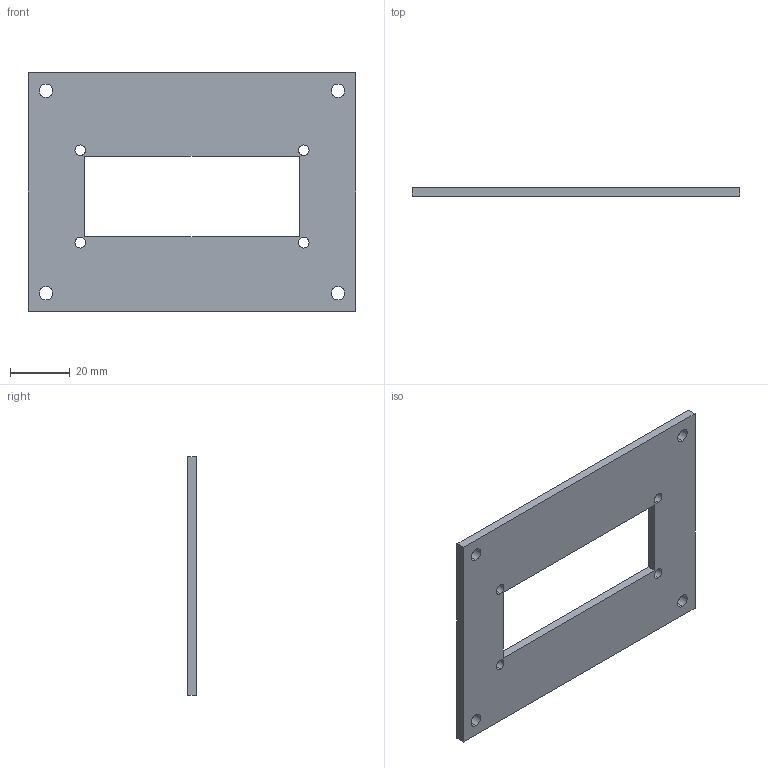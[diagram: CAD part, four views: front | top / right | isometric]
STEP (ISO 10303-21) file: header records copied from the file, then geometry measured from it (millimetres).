
FILE_DESCRIPTION (( 'STEP AP214' ), '1' );
FILE_NAME ('Faceplate.STEP', '2018-05-10T20:45:02', ( '' ), ( '' ), 'SwSTEP 2.0', 'SolidWorks 2015', '' );
FILE_SCHEMA (( 'AUTOMOTIVE_DESIGN' ));
Length unit declared in the file: millimetre
Products named in the file (1): Faceplate
Bounding box: 110 x 3 x 80 mm (x, y, z)
Volume: 20255 mm3; surface area: 15542.7 mm2
Topology: 1 solids, 1 shells, 26 faces, 72 edges, 48 vertices
Faces by surface type: cylinder 16, plane 10
Entity records: 918 total; most frequent: DIRECTION 158, CARTESIAN_POINT 147, ORIENTED_EDGE 144, EDGE_CURVE 72, AXIS2_PLACEMENT_3D 59, VERTEX_POINT 48, EDGE_LOOP 44, VECTOR 40
